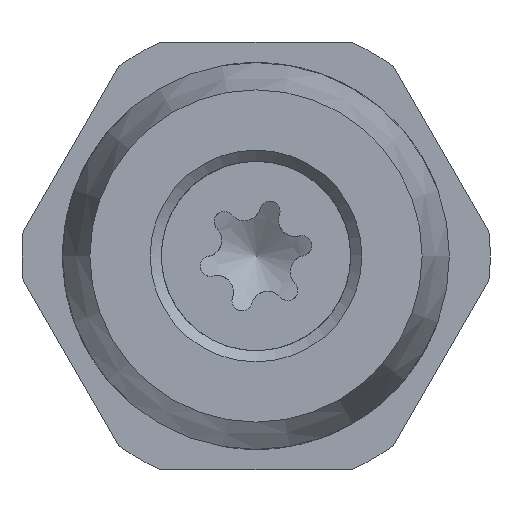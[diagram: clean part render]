
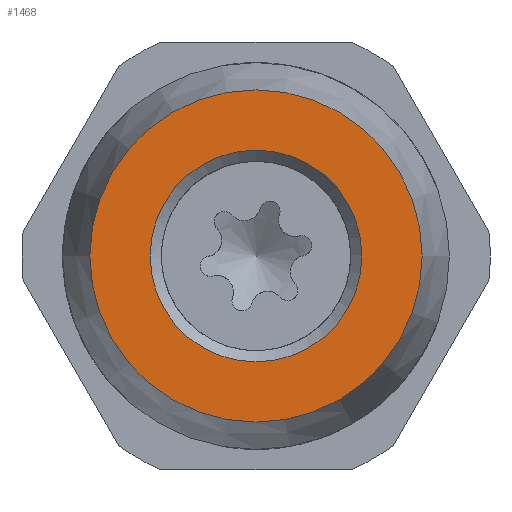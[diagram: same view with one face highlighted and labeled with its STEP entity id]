
A CAD part, front view. The second image highlights one B-rep face of the part: STEP entity #1468.
In plain terms, the highlighted planar face has unit normal (0, -1, 0).
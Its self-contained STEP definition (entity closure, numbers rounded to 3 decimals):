
#59=FACE_BOUND('',#256,.T.);
#79=PLANE('',#1604);
#174=FACE_OUTER_BOUND('',#255,.T.);
#255=EDGE_LOOP('',(#1124,#1125));
#256=EDGE_LOOP('',(#1126,#1127));
#507=CIRCLE('',#1578,5.2);
#508=CIRCLE('',#1579,5.2);
#514=CIRCLE('',#1605,8.16);
#515=CIRCLE('',#1606,8.16);
#608=VERTEX_POINT('',#2442);
#609=VERTEX_POINT('',#2443);
#641=VERTEX_POINT('',#2758);
#642=VERTEX_POINT('',#2759);
#774=EDGE_CURVE('',#608,#609,#507,.T.);
#775=EDGE_CURVE('',#609,#608,#508,.T.);
#823=EDGE_CURVE('',#641,#642,#514,.T.);
#824=EDGE_CURVE('',#642,#641,#515,.T.);
#1124=ORIENTED_EDGE('',*,*,#823,.F.);
#1125=ORIENTED_EDGE('',*,*,#824,.F.);
#1126=ORIENTED_EDGE('',*,*,#774,.T.);
#1127=ORIENTED_EDGE('',*,*,#775,.T.);
#1468=ADVANCED_FACE('',(#174,#59),#79,.T.);
#1578=AXIS2_PLACEMENT_3D('',#2444,#1811,#1812);
#1579=AXIS2_PLACEMENT_3D('',#2445,#1813,#1814);
#1604=AXIS2_PLACEMENT_3D('',#2757,#1891,#1892);
#1605=AXIS2_PLACEMENT_3D('',#2760,#1893,#1894);
#1606=AXIS2_PLACEMENT_3D('',#2761,#1895,#1896);
#1811=DIRECTION('center_axis',(0.,1.,0.));
#1812=DIRECTION('ref_axis',(0.5,0.,-0.866));
#1813=DIRECTION('center_axis',(0.,1.,0.));
#1814=DIRECTION('ref_axis',(0.5,0.,-0.866));
#1891=DIRECTION('center_axis',(0.,-1.,0.));
#1892=DIRECTION('ref_axis',(-0.866,0.,-0.5));
#1893=DIRECTION('center_axis',(0.,1.,0.));
#1894=DIRECTION('ref_axis',(-0.5,0.,0.866));
#1895=DIRECTION('center_axis',(0.,1.,0.));
#1896=DIRECTION('ref_axis',(-0.5,0.,0.866));
#2442=CARTESIAN_POINT('',(2.6,-3.8,-4.503));
#2443=CARTESIAN_POINT('',(-2.6,-3.8,4.503));
#2444=CARTESIAN_POINT('Origin',(0.,-3.8,0.));
#2445=CARTESIAN_POINT('Origin',(0.,-3.8,0.));
#2757=CARTESIAN_POINT('Origin',(-2.04,-3.8,3.533));
#2758=CARTESIAN_POINT('',(-4.08,-3.8,7.067));
#2759=CARTESIAN_POINT('',(4.08,-3.8,-7.067));
#2760=CARTESIAN_POINT('Origin',(0.,-3.8,0.));
#2761=CARTESIAN_POINT('Origin',(0.,-3.8,0.));
